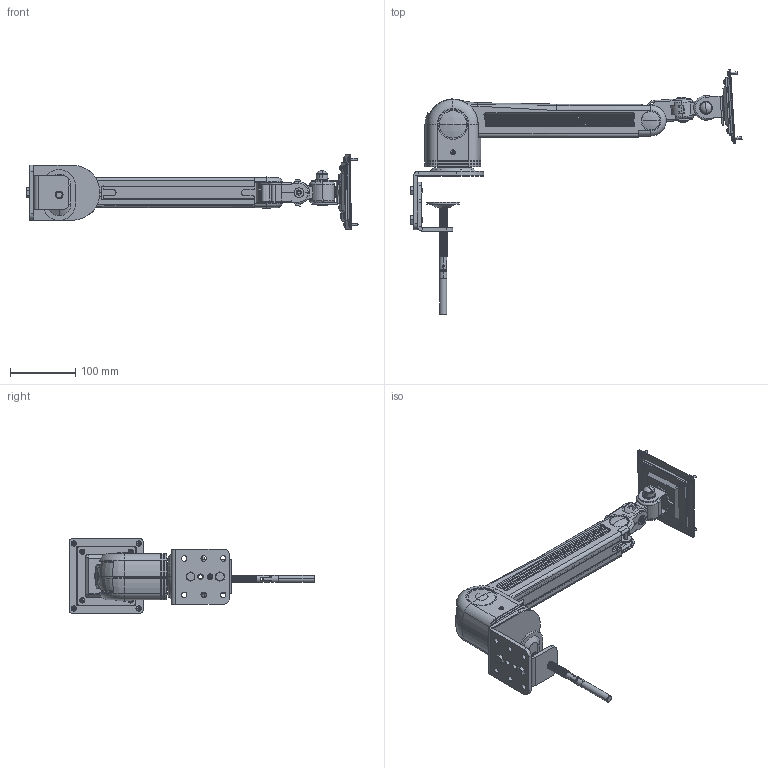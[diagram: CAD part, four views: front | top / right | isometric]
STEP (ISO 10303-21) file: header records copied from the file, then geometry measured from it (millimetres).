
FILE_DESCRIPTION (( 'STEP AP203' ), '1' );
FILE_NAME ('FC8888P.STEP', '2012-12-04T06:28:11', ( 'BUMI-XP' ), ( 'HOME' ), 'SwSTEP 2.0', 'SolidWorks 2009', '' );
FILE_SCHEMA (( 'CONFIG_CONTROL_DESIGN' ));
Products named in the file (57): A4-0023-DAAAA; A6-0097-I40AA; A0-DD08-020AA; A0-CB08-130AA_KS B 1044 T1 - M8-C; B0-0078-BAAAA; B0-0106-dAAAA; A6-0090-E25AA; A4-0022-BAAAA; A1-D021-15AAA; A6-0094-H20AA; B0-0107-dAAAA; A6-0091-H23AA; A0-DB08-009AA; A0-DC08-016AA; A1-A013-08AAA; A0-DA08-020AA; A0-DE05-006AA_Truarc 5133-25 - S0.25; A4-0034-DAAAA; A2-A001-A30AA; A1-D013-08AAA; A4-0031-BAAAA; A0-AJ02-155UR_PANHTS 0.125-0.47; A4-0032-BAAAA; A4-0033-BAAAA; A6-0009-H30AA; B0-0076-DAACA; A1-D022-12AAA_JIS B 1180 M12 x 25 - N; A1-D023-11AAA; A4-0005-BAAAA; A0-AC04-008AA_JIS B 1111 - M4 x 8 - Z; A6-0066-H20AA; A0-AC04-012AA_JIS B 1111 - M4 x 12 - Z; A1-E009-09AAA; FC8888P; A6-0098-I60AA; B0-0433-BAAAA; A4-0035-VAAAA; A6-0088-E25AA; A6-0364-E16AA; A1-D016-08AAA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
Assembly tree (78 placements, depth 7):
  FC8888P
    A0-AC04-008AA_JIS B 1111 - M4 x 8 - Z  x4
    A0-AC04-012AA_JIS B 1111 - M4 x 12 - Z  x4
    B0-0080-BAAAA
      A0-AA05-012UA_HBOLT 0.3125-18x0.5x0.5-C  x2
      B0-0158-BAAAA
        B0-0076-DAACA
          A1-D022-12AAA_JIS B 1180 M12 x 25 - N
          A1-D023-11AAA
        A6-0308-A53AA
        A0-DE05-006AA_Default
        A6-0009-H30AA
      A4-0033-BAAAA
      A0-AC04-008AA_JIS B 1111 - M4 x 8 - Z  x2
      A0-AJ02-155UR_PANHTS 0.125-0.47
      A4-0032-BAAAA
      A4-0006-BAAAA
      B0-0441-BAAAA
        A4-0034-DAAAA  x2
        A2-A001-A30AA
        A1-D013-08AAA  x2
        A0-AD04-008AA_DIN 967 - M4 x 8  x3
        B0-0433-BAAAA
          A1-D014-06AAA  x2
          A0-DE05-006AA_Truarc 5133-25 - S0.25  x4
          B0-0078-BAAAA
            A6-0094-H20AA  x2
            B0-0106-dAAAA
              A6-0094-H20AA
              A4-0022-BAAAA
              A1-D021-15AAA
              A6-0364-E16AA
              A1-D016-08AAA
              A6-0090-E25AA
              A0-DB08-009AA
            A0-DB08-009AA
            B0-0107-dAAAA
              A0-DC08-016AA
              A0-DB08-009AA
              A6-0091-H23AA
              A1-D015-15AAA
              A0-DC08-010AA
              A6-0059-H25AA
            A0-CA08-130AA_JIS B 1181 Hexagon nut - Class 1 Regular M8 --C
            A0-DA08-020AA
            A1-A013-08AAA
          A6-0088-E25AA
        B0-0442-BAAAA
          A0-CB08-130AA_KS B 1044 T1 - M8-C
          A4-0035-VAAAA
          A4-0023-DAAAA
          A0-DD08-020AA
          A0-DB08-009AA
          B0-0109-WAADA
            A1-E009-09AAA
            A6-0098-I60AA
          A6-0097-I40AA
        A1-F001-08AAA
      A4-0030-BAAAA
      A4-0031-BAAAA
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Bounding box: 510.74 x 378.1 x 114.01 mm (x, y, z)
Volume: 649853.2 mm3; surface area: 498441.3 mm2
Topology: 68 solids, 68 shells, 3097 faces, 7959 edges, 5040 vertices
Faces by surface type: plane 1361, cylinder 1046, cone 409, torus 155, bspline 64, sphere 62
Entity records: 94232 total; most frequent: CARTESIAN_POINT 23157, DIRECTION 13900, ORIENTED_EDGE 13392, EDGE_CURVE 6696, AXIS2_PLACEMENT_3D 5217, VERTEX_POINT 4275, VECTOR 3466, LINE 3466
